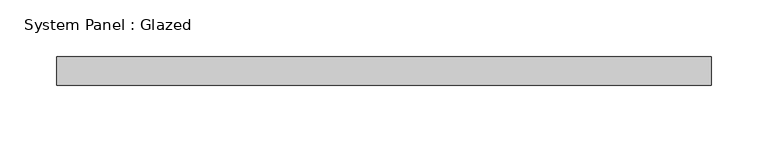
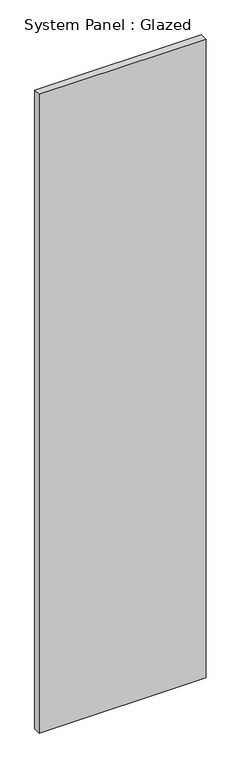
"""IFC4 building model written with IfcOpenShell, lengths in millimetres: plate geometry, System Panel : Glazed."""

from ifc_helpers import new_model, si_unit, origin, origin_with_axes, place, context, project, spatial, polyline, outline, extrude, source, transform, mapped, element, save


def system_panel_glazed_da9c98b6(model_context):
    return source(origin(), model_context, "Body", "SweptSolid", [
        extrude(outline(polyline([(287.5, 24.5), (-287.5, 24.5), (-287.5, 49.5), (287.5, 49.5), (287.5, 24.5)])), origin_with_axes(), (0.0, 0.0, 1.0), 2325.0),
    ])


if __name__ == "__main__":
    model = new_model("IFC4")
    model_context = context("Model", 3, world=origin())
    ifc_project = project(units=[si_unit("LENGTHUNIT", "METRE", prefix="MILLI")], contexts=[model_context])
    site = spatial("IfcSite", under=ifc_project)
    building = spatial("IfcBuilding", under=site)
    placement = place(None, origin())
    system_panel_glazed_shape = system_panel_glazed_da9c98b6(model_context)
    element("IfcPlate", 1, ObjectType="System Panel : Glazed", at=placement, inside=building, context=model_context, shape_type="MappedRepresentation", body=[
        mapped(system_panel_glazed_shape, transform((0.0, 0.0, 0.0), x_axis=(1.0, 0.0, 0.0), y_axis=(0.0, 1.0, 0.0), z_axis=(0.0, 0.0, 1.0))),
    ])
    save(model, "model.ifc")
